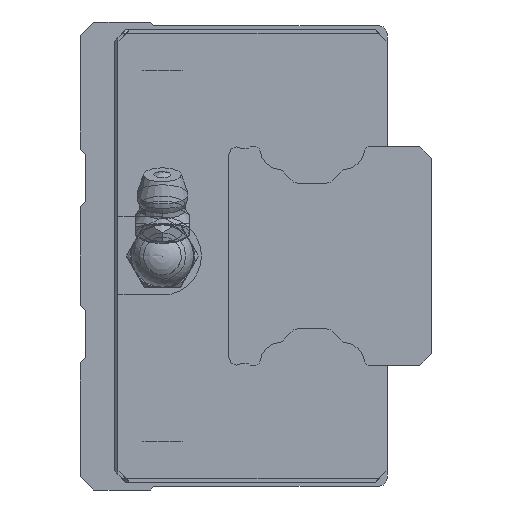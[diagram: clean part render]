
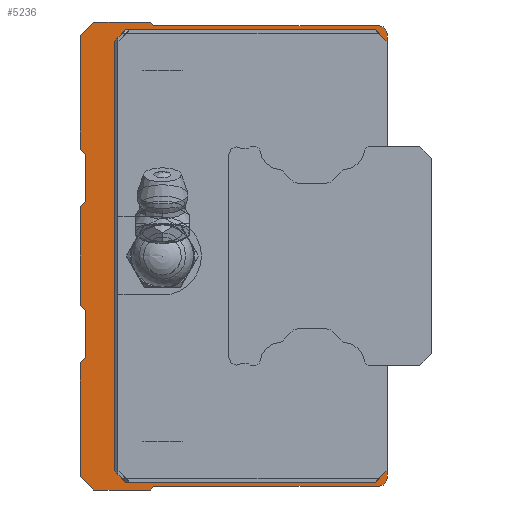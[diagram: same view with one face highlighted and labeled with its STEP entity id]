
A CAD part, left-side view. The second image highlights one B-rep face of the part: STEP entity #5236.
In plain terms, the highlighted planar face has unit normal (-1, 0, 0).
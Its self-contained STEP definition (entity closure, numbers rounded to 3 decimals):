
#78=LINE('',#8060,#440);
#87=LINE('',#8080,#449);
#96=LINE('',#8098,#458);
#122=LINE('',#8154,#484);
#130=LINE('',#8171,#492);
#138=LINE('',#8188,#500);
#163=LINE('',#8239,#525);
#197=LINE('',#8340,#559);
#199=LINE('',#8344,#561);
#224=LINE('',#8430,#586);
#228=LINE('',#8439,#590);
#231=LINE('',#8445,#593);
#235=LINE('',#8457,#597);
#239=LINE('',#8472,#601);
#243=LINE('',#8484,#605);
#246=LINE('',#8490,#608);
#249=LINE('',#8496,#611);
#252=LINE('',#8506,#614);
#255=LINE('',#8512,#617);
#259=LINE('',#8524,#621);
#263=LINE('',#8536,#625);
#266=LINE('',#8546,#628);
#269=LINE('',#8552,#631);
#273=LINE('',#8564,#635);
#277=LINE('',#8576,#639);
#280=LINE('',#8586,#642);
#440=VECTOR('',#6311,1000.);
#449=VECTOR('',#6326,1000.);
#458=VECTOR('',#6339,1000.);
#484=VECTOR('',#6379,1000.);
#492=VECTOR('',#6391,1000.);
#500=VECTOR('',#6405,1000.);
#525=VECTOR('',#6446,1000.);
#559=VECTOR('',#6524,1000.);
#561=VECTOR('',#6528,1000.);
#586=VECTOR('',#6595,1000.);
#590=VECTOR('',#6601,1000.);
#593=VECTOR('',#6606,1000.);
#597=VECTOR('',#6618,1000.);
#601=VECTOR('',#6636,1000.);
#605=VECTOR('',#6648,1000.);
#608=VECTOR('',#6653,1000.);
#611=VECTOR('',#6658,1000.);
#614=VECTOR('',#6667,1000.);
#617=VECTOR('',#6672,1000.);
#621=VECTOR('',#6684,1000.);
#625=VECTOR('',#6696,1000.);
#628=VECTOR('',#6705,1000.);
#631=VECTOR('',#6710,1000.);
#635=VECTOR('',#6722,1000.);
#639=VECTOR('',#6734,1000.);
#642=VECTOR('',#6743,1000.);
#837=PLANE('',#5694);
#1141=CIRCLE('',#5650,0.3);
#1143=CIRCLE('',#5654,1.);
#1145=CIRCLE('',#5657,1.);
#1147=CIRCLE('',#5661,0.3);
#1151=CIRCLE('',#5671,0.5);
#1153=CIRCLE('',#5675,0.5);
#1157=CIRCLE('',#5683,0.5);
#1159=CIRCLE('',#5687,0.5);
#1899=ORIENTED_EDGE('',*,*,#2837,.T.);
#1900=ORIENTED_EDGE('',*,*,#2846,.T.);
#1901=ORIENTED_EDGE('',*,*,#2969,.F.);
#1902=ORIENTED_EDGE('',*,*,#3031,.F.);
#1903=ORIENTED_EDGE('',*,*,#3028,.F.);
#1904=ORIENTED_EDGE('',*,*,#3025,.T.);
#1905=ORIENTED_EDGE('',*,*,#3022,.F.);
#1906=ORIENTED_EDGE('',*,*,#3019,.F.);
#1907=ORIENTED_EDGE('',*,*,#3015,.F.);
#1908=ORIENTED_EDGE('',*,*,#3093,.F.);
#1909=ORIENTED_EDGE('',*,*,#3088,.F.);
#1910=ORIENTED_EDGE('',*,*,#3085,.T.);
#1911=ORIENTED_EDGE('',*,*,#3082,.F.);
#1912=ORIENTED_EDGE('',*,*,#3079,.T.);
#1913=ORIENTED_EDGE('',*,*,#3076,.F.);
#1914=ORIENTED_EDGE('',*,*,#3073,.F.);
#1915=ORIENTED_EDGE('',*,*,#3068,.F.);
#1916=ORIENTED_EDGE('',*,*,#3065,.T.);
#1917=ORIENTED_EDGE('',*,*,#3062,.F.);
#1918=ORIENTED_EDGE('',*,*,#3059,.T.);
#1919=ORIENTED_EDGE('',*,*,#3056,.F.);
#1920=ORIENTED_EDGE('',*,*,#3053,.F.);
#1921=ORIENTED_EDGE('',*,*,#3048,.F.);
#1922=ORIENTED_EDGE('',*,*,#3045,.F.);
#1923=ORIENTED_EDGE('',*,*,#3042,.F.);
#1924=ORIENTED_EDGE('',*,*,#3039,.T.);
#1925=ORIENTED_EDGE('',*,*,#3036,.F.);
#1926=ORIENTED_EDGE('',*,*,#3033,.F.);
#1927=ORIENTED_EDGE('',*,*,#2971,.F.);
#1928=ORIENTED_EDGE('',*,*,#2881,.T.);
#1929=ORIENTED_EDGE('',*,*,#2890,.T.);
#1930=ORIENTED_EDGE('',*,*,#2873,.T.);
#1931=ORIENTED_EDGE('',*,*,#2916,.T.);
#1932=ORIENTED_EDGE('',*,*,#2827,.T.);
#2827=EDGE_CURVE('',#3489,#3488,#78,.T.);
#2837=EDGE_CURVE('',#3488,#3496,#87,.T.);
#2846=EDGE_CURVE('',#3496,#3503,#96,.T.);
#2873=EDGE_CURVE('',#3527,#3526,#122,.T.);
#2881=EDGE_CURVE('',#3534,#3533,#130,.T.);
#2890=EDGE_CURVE('',#3533,#3527,#138,.T.);
#2916=EDGE_CURVE('',#3526,#3489,#163,.T.);
#2969=EDGE_CURVE('',#3602,#3503,#197,.T.);
#2971=EDGE_CURVE('',#3534,#3604,#199,.T.);
#3015=EDGE_CURVE('',#3644,#3645,#224,.T.);
#3019=EDGE_CURVE('',#3645,#3648,#228,.T.);
#3022=EDGE_CURVE('',#3648,#3650,#231,.T.);
#3025=EDGE_CURVE('',#3652,#3650,#1141,.T.);
#3028=EDGE_CURVE('',#3652,#3654,#235,.T.);
#3031=EDGE_CURVE('',#3654,#3602,#1143,.T.);
#3033=EDGE_CURVE('',#3604,#3656,#1145,.T.);
#3036=EDGE_CURVE('',#3656,#3658,#239,.T.);
#3039=EDGE_CURVE('',#3660,#3658,#1147,.T.);
#3042=EDGE_CURVE('',#3660,#3662,#243,.T.);
#3045=EDGE_CURVE('',#3662,#3664,#246,.T.);
#3048=EDGE_CURVE('',#3664,#3666,#249,.T.);
#3053=EDGE_CURVE('',#3666,#3670,#252,.T.);
#3056=EDGE_CURVE('',#3670,#3672,#255,.T.);
#3059=EDGE_CURVE('',#3674,#3672,#1151,.T.);
#3062=EDGE_CURVE('',#3674,#3676,#259,.T.);
#3065=EDGE_CURVE('',#3678,#3676,#1153,.T.);
#3068=EDGE_CURVE('',#3678,#3680,#263,.T.);
#3073=EDGE_CURVE('',#3680,#3684,#266,.T.);
#3076=EDGE_CURVE('',#3684,#3686,#269,.T.);
#3079=EDGE_CURVE('',#3688,#3686,#1157,.T.);
#3082=EDGE_CURVE('',#3688,#3690,#273,.T.);
#3085=EDGE_CURVE('',#3692,#3690,#1159,.T.);
#3088=EDGE_CURVE('',#3692,#3694,#277,.T.);
#3093=EDGE_CURVE('',#3694,#3644,#280,.T.);
#3488=VERTEX_POINT('',#8059);
#3489=VERTEX_POINT('',#8061);
#3496=VERTEX_POINT('',#8079);
#3503=VERTEX_POINT('',#8097);
#3526=VERTEX_POINT('',#8153);
#3527=VERTEX_POINT('',#8155);
#3533=VERTEX_POINT('',#8170);
#3534=VERTEX_POINT('',#8172);
#3602=VERTEX_POINT('',#8339);
#3604=VERTEX_POINT('',#8345);
#3644=VERTEX_POINT('',#8431);
#3645=VERTEX_POINT('',#8432);
#3648=VERTEX_POINT('',#8440);
#3650=VERTEX_POINT('',#8446);
#3652=VERTEX_POINT('',#8452);
#3654=VERTEX_POINT('',#8458);
#3656=VERTEX_POINT('',#8467);
#3658=VERTEX_POINT('',#8473);
#3660=VERTEX_POINT('',#8479);
#3662=VERTEX_POINT('',#8485);
#3664=VERTEX_POINT('',#8491);
#3666=VERTEX_POINT('',#8497);
#3670=VERTEX_POINT('',#8507);
#3672=VERTEX_POINT('',#8513);
#3674=VERTEX_POINT('',#8519);
#3676=VERTEX_POINT('',#8525);
#3678=VERTEX_POINT('',#8531);
#3680=VERTEX_POINT('',#8537);
#3684=VERTEX_POINT('',#8547);
#3686=VERTEX_POINT('',#8553);
#3688=VERTEX_POINT('',#8559);
#3690=VERTEX_POINT('',#8565);
#3692=VERTEX_POINT('',#8571);
#3694=VERTEX_POINT('',#8577);
#4094=EDGE_LOOP('',(#1899,#1900,#1901,#1902,#1903,#1904,#1905,#1906,#1907,
#1908,#1909,#1910,#1911,#1912,#1913,#1914,#1915,#1916,#1917,#1918,#1919,
#1920,#1921,#1922,#1923,#1924,#1925,#1926,#1927,#1928,#1929,#1930,#1931,
#1932));
#4659=FACE_BOUND('',#4094,.T.);
#5236=ADVANCED_FACE('',(#4659),#837,.F.);
#5650=AXIS2_PLACEMENT_3D('',#8451,#6611,#6612);
#5654=AXIS2_PLACEMENT_3D('',#8463,#6623,#6624);
#5657=AXIS2_PLACEMENT_3D('',#8466,#6629,#6630);
#5661=AXIS2_PLACEMENT_3D('',#8478,#6641,#6642);
#5671=AXIS2_PLACEMENT_3D('',#8518,#6677,#6678);
#5675=AXIS2_PLACEMENT_3D('',#8530,#6689,#6690);
#5683=AXIS2_PLACEMENT_3D('',#8558,#6715,#6716);
#5687=AXIS2_PLACEMENT_3D('',#8570,#6727,#6728);
#5694=AXIS2_PLACEMENT_3D('',#8589,#6747,#6748);
#6311=DIRECTION('',(0.,-0.707,0.707));
#6326=DIRECTION('',(0.,-1.,0.));
#6339=DIRECTION('',(0.,-0.707,-0.707));
#6379=DIRECTION('',(0.,0.707,0.707));
#6391=DIRECTION('',(0.,0.707,-0.707));
#6405=DIRECTION('',(0.,1.,0.));
#6446=DIRECTION('',(0.,0.,1.));
#6524=DIRECTION('',(0.,0.,-1.));
#6528=DIRECTION('',(0.,0.,-1.));
#6595=DIRECTION('',(0.,-0.707,0.707));
#6601=DIRECTION('',(0.,-1.,0.));
#6606=DIRECTION('',(0.,-0.707,-0.707));
#6611=DIRECTION('',(1.,0.,0.));
#6612=DIRECTION('',(0.,0.,-1.));
#6618=DIRECTION('',(0.,-1.,0.));
#6623=DIRECTION('',(1.,0.,0.));
#6624=DIRECTION('',(0.,0.,-1.));
#6629=DIRECTION('',(1.,0.,0.));
#6630=DIRECTION('',(0.,0.,-1.));
#6636=DIRECTION('',(0.,1.,0.));
#6641=DIRECTION('',(1.,0.,0.));
#6642=DIRECTION('',(0.,0.,-1.));
#6648=DIRECTION('',(0.,0.707,-0.707));
#6653=DIRECTION('',(0.,1.,0.));
#6658=DIRECTION('',(0.,0.707,0.707));
#6667=DIRECTION('',(0.,0.,1.));
#6672=DIRECTION('',(0.,-0.707,0.707));
#6677=DIRECTION('',(1.,0.,0.));
#6678=DIRECTION('',(0.,0.,-1.));
#6684=DIRECTION('',(0.,0.,1.));
#6689=DIRECTION('',(1.,0.,0.));
#6690=DIRECTION('',(0.,0.,-1.));
#6696=DIRECTION('',(0.,0.707,0.707));
#6705=DIRECTION('',(0.,0.,1.));
#6710=DIRECTION('',(0.,-0.707,0.707));
#6715=DIRECTION('',(1.,0.,0.));
#6716=DIRECTION('',(0.,0.,-1.));
#6722=DIRECTION('',(0.,0.,1.));
#6727=DIRECTION('',(1.,0.,0.));
#6728=DIRECTION('',(0.,0.,-1.));
#6734=DIRECTION('',(0.,0.707,0.707));
#6743=DIRECTION('',(0.,0.,1.));
#6747=DIRECTION('',(1.,0.,0.));
#6748=DIRECTION('',(0.,0.,-1.));
#8059=CARTESIAN_POINT('',(-46.25,33.5,29.));
#8060=CARTESIAN_POINT('',(-46.25,35.,27.5));
#8061=CARTESIAN_POINT('',(-46.25,35.,27.5));
#8079=CARTESIAN_POINT('',(-46.25,1.5,29.));
#8080=CARTESIAN_POINT('',(-46.25,33.5,29.));
#8097=CARTESIAN_POINT('',(-46.25,0.,27.5));
#8098=CARTESIAN_POINT('',(-46.25,1.5,29.));
#8153=CARTESIAN_POINT('',(-46.25,35.,-27.5));
#8154=CARTESIAN_POINT('',(-46.25,33.5,-29.));
#8155=CARTESIAN_POINT('',(-46.25,33.5,-29.));
#8170=CARTESIAN_POINT('',(-46.25,1.5,-29.));
#8171=CARTESIAN_POINT('',(-46.25,0.,-27.5));
#8172=CARTESIAN_POINT('',(-46.25,0.,-27.5));
#8188=CARTESIAN_POINT('',(-46.25,1.5,-29.));
#8239=CARTESIAN_POINT('',(-46.25,35.,-27.5));
#8339=CARTESIAN_POINT('',(-46.25,0.,28.5));
#8340=CARTESIAN_POINT('',(-46.25,0.,28.5));
#8344=CARTESIAN_POINT('',(-46.25,0.,28.5));
#8345=CARTESIAN_POINT('',(-46.25,0.,-28.5));
#8430=CARTESIAN_POINT('',(-46.25,39.3,28.3));
#8431=CARTESIAN_POINT('',(-46.25,39.3,28.3));
#8432=CARTESIAN_POINT('',(-46.25,37.6,30.));
#8439=CARTESIAN_POINT('',(-46.25,37.6,30.));
#8440=CARTESIAN_POINT('',(-46.25,30.3,30.));
#8445=CARTESIAN_POINT('',(-46.25,30.3,30.));
#8446=CARTESIAN_POINT('',(-46.25,29.888,29.588));
#8451=CARTESIAN_POINT('',(-46.25,29.676,29.8));
#8452=CARTESIAN_POINT('',(-46.25,29.676,29.5));
#8457=CARTESIAN_POINT('',(-46.25,29.676,29.5));
#8458=CARTESIAN_POINT('',(-46.25,1.,29.5));
#8463=CARTESIAN_POINT('',(-46.25,1.,28.5));
#8466=CARTESIAN_POINT('',(-46.25,1.,-28.5));
#8467=CARTESIAN_POINT('',(-46.25,1.,-29.5));
#8472=CARTESIAN_POINT('',(-46.25,1.,-29.5));
#8473=CARTESIAN_POINT('',(-46.25,29.676,-29.5));
#8478=CARTESIAN_POINT('',(-46.25,29.676,-29.8));
#8479=CARTESIAN_POINT('',(-46.25,29.888,-29.588));
#8484=CARTESIAN_POINT('',(-46.25,29.888,-29.588));
#8485=CARTESIAN_POINT('',(-46.25,30.3,-30.));
#8490=CARTESIAN_POINT('',(-46.25,30.3,-30.));
#8491=CARTESIAN_POINT('',(-46.25,37.6,-30.));
#8496=CARTESIAN_POINT('',(-46.25,37.6,-30.));
#8497=CARTESIAN_POINT('',(-46.25,39.3,-28.3));
#8506=CARTESIAN_POINT('',(-46.25,39.3,-28.3));
#8507=CARTESIAN_POINT('',(-46.25,39.3,-13.7));
#8512=CARTESIAN_POINT('',(-46.25,39.3,-13.7));
#8513=CARTESIAN_POINT('',(-46.25,38.746,-13.146));
#8518=CARTESIAN_POINT('',(-46.25,39.1,-12.793));
#8519=CARTESIAN_POINT('',(-46.25,38.6,-12.793));
#8524=CARTESIAN_POINT('',(-46.25,38.6,-12.793));
#8525=CARTESIAN_POINT('',(-46.25,38.6,-7.207));
#8530=CARTESIAN_POINT('',(-46.25,39.1,-7.207));
#8531=CARTESIAN_POINT('',(-46.25,38.746,-6.854));
#8536=CARTESIAN_POINT('',(-46.25,38.746,-6.854));
#8537=CARTESIAN_POINT('',(-46.25,39.3,-6.3));
#8546=CARTESIAN_POINT('',(-46.25,39.3,-6.3));
#8547=CARTESIAN_POINT('',(-46.25,39.3,6.3));
#8552=CARTESIAN_POINT('',(-46.25,39.3,6.3));
#8553=CARTESIAN_POINT('',(-46.25,38.746,6.854));
#8558=CARTESIAN_POINT('',(-46.25,39.1,7.207));
#8559=CARTESIAN_POINT('',(-46.25,38.6,7.207));
#8564=CARTESIAN_POINT('',(-46.25,38.6,7.207));
#8565=CARTESIAN_POINT('',(-46.25,38.6,12.793));
#8570=CARTESIAN_POINT('',(-46.25,39.1,12.793));
#8571=CARTESIAN_POINT('',(-46.25,38.746,13.146));
#8576=CARTESIAN_POINT('',(-46.25,38.746,13.146));
#8577=CARTESIAN_POINT('',(-46.25,39.3,13.7));
#8586=CARTESIAN_POINT('',(-46.25,39.3,13.7));
#8589=CARTESIAN_POINT('',(-46.25,29.676,29.8));
